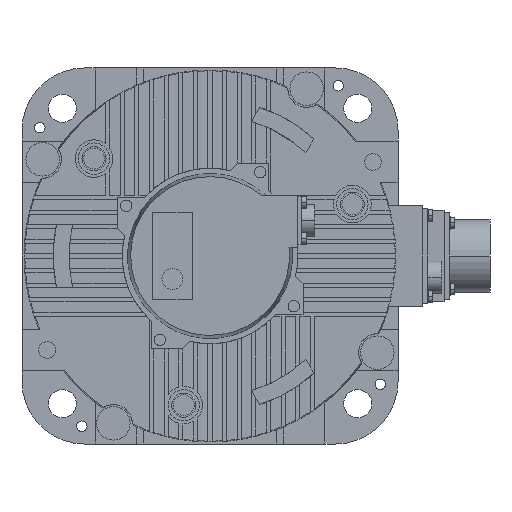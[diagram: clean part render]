
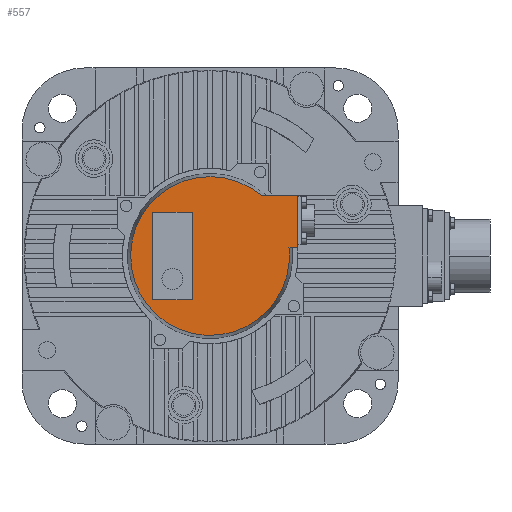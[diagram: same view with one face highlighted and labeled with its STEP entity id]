
A CAD part, left-side view. The second image highlights one B-rep face of the part: STEP entity #557.
In plain terms, the highlighted planar face has unit normal (-1, 0, 0).
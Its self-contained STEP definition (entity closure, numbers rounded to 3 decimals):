
#557=ADVANCED_FACE('',(#5458,#5459),#5457,.F.);
#5457=PLANE('',#11904);
#5458=FACE_OUTER_BOUND('',#11905,.T.);
#5459=FACE_BOUND('',#11906,.T.);
#11901=CARTESIAN_POINT('',(-232.,-52.891,71.254));
#11902=DIRECTION('',(1.,0.,0.));
#11903=DIRECTION('',(0.,0.,-1.));
#11904=AXIS2_PLACEMENT_3D('',#11901,#11902,#11903);
#11905=EDGE_LOOP('',(#16548,#16549,#16550,#16551));
#11906=EDGE_LOOP('',(#16552,#16553,#16554,#16555));
#16548=ORIENTED_EDGE('',*,*,#18750,.F.);
#16549=ORIENTED_EDGE('',*,*,#18702,.F.);
#16550=ORIENTED_EDGE('',*,*,#19274,.F.);
#16551=ORIENTED_EDGE('',*,*,#18694,.F.);
#16552=ORIENTED_EDGE('',*,*,#20337,.F.);
#16553=ORIENTED_EDGE('',*,*,#20335,.F.);
#16554=ORIENTED_EDGE('',*,*,#20333,.F.);
#16555=ORIENTED_EDGE('',*,*,#20330,.F.);
#18694=EDGE_CURVE('',#21145,#21152,#21153,.T.);
#18702=EDGE_CURVE('',#21199,#21206,#21207,.T.);
#18750=EDGE_CURVE('',#21206,#21145,#21540,.T.);
#19274=EDGE_CURVE('',#21152,#21199,#25124,.T.);
#20330=EDGE_CURVE('',#32187,#32188,#32189,.T.);
#20333=EDGE_CURVE('',#32188,#32207,#32208,.T.);
#20335=EDGE_CURVE('',#32207,#32220,#32221,.T.);
#20337=EDGE_CURVE('',#32220,#32187,#32233,.T.);
#21145=VERTEX_POINT('',#36430);
#21152=VERTEX_POINT('',#36435);
#21153=LINE('',#36436,#36437);
#21199=VERTEX_POINT('',#36462);
#21206=VERTEX_POINT('',#36466);
#21207=LINE('',#36467,#36468);
#21540=CIRCLE('',#36681,38.);
#25124=LINE('',#38871,#38872);
#32187=VERTEX_POINT('',#43203);
#32188=VERTEX_POINT('',#43204);
#32189=LINE('',#43205,#43206);
#32207=VERTEX_POINT('',#43214);
#32208=LINE('',#43215,#43216);
#32220=VERTEX_POINT('',#43221);
#32221=LINE('',#43222,#43223);
#32233=LINE('',#43228,#43229);
#36430=CARTESIAN_POINT('',(-232.,-24.556,29.));
#36435=CARTESIAN_POINT('',(-232.,-42.,29.));
#36436=CARTESIAN_POINT('',(-232.,-24.556,29.));
#36437=VECTOR('',#36438,17.444);
#36438=DIRECTION('',(0.,-1.,0.));
#36462=CARTESIAN_POINT('',(-232.,-42.,4.));
#36466=CARTESIAN_POINT('',(-232.,-37.789,4.));
#36467=CARTESIAN_POINT('',(-232.,-42.,4.));
#36468=VECTOR('',#36469,4.211);
#36469=DIRECTION('',(0.,1.,0.));
#36678=CARTESIAN_POINT('',(-232.,0.,0.));
#36679=DIRECTION('',(1.,0.,0.));
#36680=DIRECTION('',(0.,-0.994,0.105));
#36681=AXIS2_PLACEMENT_3D('',#36678,#36679,#36680);
#38871=CARTESIAN_POINT('',(-232.,-42.,29.));
#38872=VECTOR('',#38873,25.);
#38873=DIRECTION('',(0.,0.,-1.));
#43203=CARTESIAN_POINT('',(-232.,8.5,21.));
#43204=CARTESIAN_POINT('',(-232.,27.5,21.));
#43205=CARTESIAN_POINT('',(-232.,8.5,21.));
#43206=VECTOR('',#43207,19.);
#43207=DIRECTION('',(0.,1.,0.));
#43214=CARTESIAN_POINT('',(-232.,27.5,-21.));
#43215=CARTESIAN_POINT('',(-232.,27.5,21.));
#43216=VECTOR('',#43217,42.);
#43217=DIRECTION('',(0.,0.,-1.));
#43221=CARTESIAN_POINT('',(-232.,8.5,-21.));
#43222=CARTESIAN_POINT('',(-232.,27.5,-21.));
#43223=VECTOR('',#43224,19.);
#43224=DIRECTION('',(0.,-1.,0.));
#43228=CARTESIAN_POINT('',(-232.,8.5,-21.));
#43229=VECTOR('',#43230,42.);
#43230=DIRECTION('',(0.,0.,1.));
